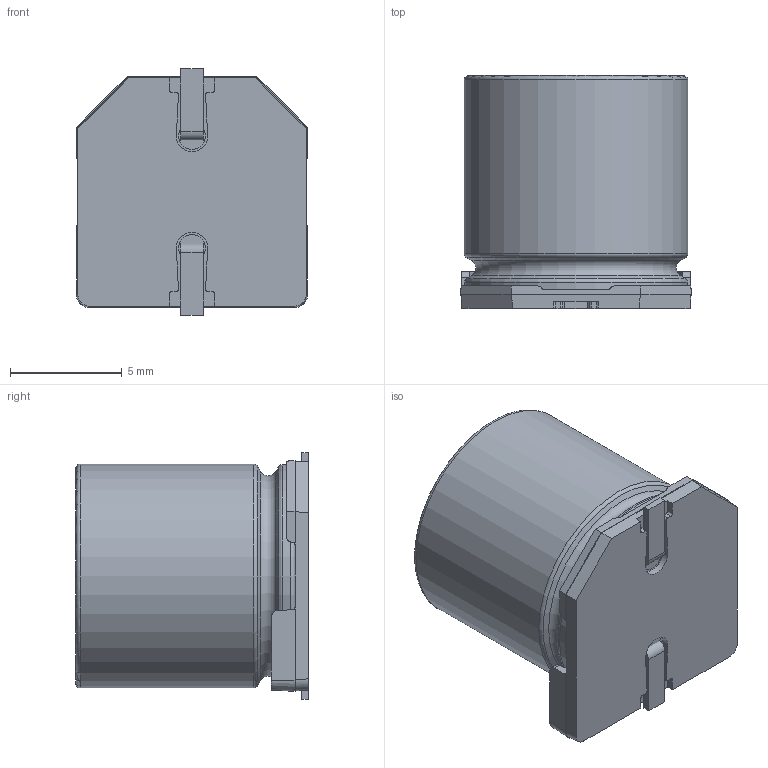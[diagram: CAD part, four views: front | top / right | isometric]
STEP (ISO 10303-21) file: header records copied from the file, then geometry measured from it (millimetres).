
FILE_DESCRIPTION (( 'STEP AP214' ), '1' );
FILE_NAME ('F10.STEP', '2019-07-09T23:57:29', ( '全社標準PC（ver1803）' ), ( 'パナソニック株式会社' ), 'SwSTEP 2.0', 'SolidWorks 2019', '' );
FILE_SCHEMA (( 'AUTOMOTIVE_DESIGN' ));
Length unit declared in the file: millimetre
Products named in the file (1): F10
Bounding box: 10.3 x 10.4 x 11 mm (x, y, z)
Surface area: 675.4 mm2 (no closed solid volume)
Topology: 0 solids, 6 shells, 99 faces, 286 edges, 194 vertices
Faces by surface type: plane 58, cylinder 30, cone 6, torus 5
Full cylindrical faces by diameter (mm): 9.95 x1, 10 x1
Entity records: 4395 total; most frequent: CARTESIAN_POINT 767, ORIENTED_EDGE 525, DIRECTION 495, EDGE_CURVE 276, VERTEX_POINT 193, LINE 181, VECTOR 181, AXIS2_PLACEMENT_3D 157
